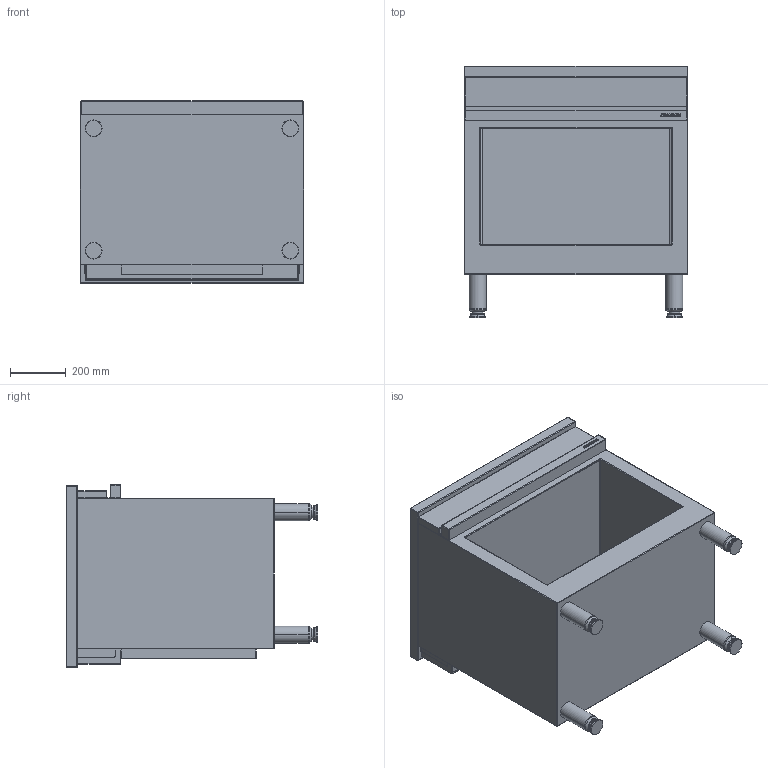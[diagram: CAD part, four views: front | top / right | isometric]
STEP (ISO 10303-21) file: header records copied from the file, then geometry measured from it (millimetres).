
FILE_DESCRIPTION((''),'2;1');
FILE_NAME('CMA800P_EXPORT_STEP_ASM','2017-11-22T',('r.avril'),(''),'PRO/ENGINEER BY PARAMETRIC TECHNOLOGY CORPORATION, 2014200','PRO/ENGINEER BY PARAMETRIC TECHNOLOGY CORPORATION, 2014200','');
FILE_SCHEMA(('AP203_CONFIGURATION_CONTROLLED_3D_DESIGN_OF_MECHANICAL_PARTS_AND_ASSEMBLIES_MIM_LF { 1 0 10303 403 2 1 2 }'));
Length unit declared in the file: millimetre
Products named in the file (3): MODULES_AMB_800_EXPORT_STEP; TABLE_800_NEUTRE; CMA800P_EXPORT_STEP_ASM
Assembly tree (2 placements, depth 2):
  CMA800P_EXPORT_STEP_ASM
    MODULES_AMB_800_EXPORT_STEP
    TABLE_800_NEUTRE
Bounding box: 800 x 900 x 652.1 mm (x, y, z)
Volume: 109483249.6 mm3; surface area: 6185842 mm2
Topology: 8 solids, 26 shells, 303 faces, 1287 edges, 1272 vertices
Faces by surface type: cylinder 121, plane 102, sphere 36, torus 28, cone 16
Entity records: 16129 total; most frequent: CARTESIAN_POINT 4353, DIRECTION 1878, ORIENTED_EDGE 1640, EDGE_CURVE 1045, VERTEX_POINT 788, AXIS2_PLACEMENT_3D 643, VECTOR 583, LINE 583
